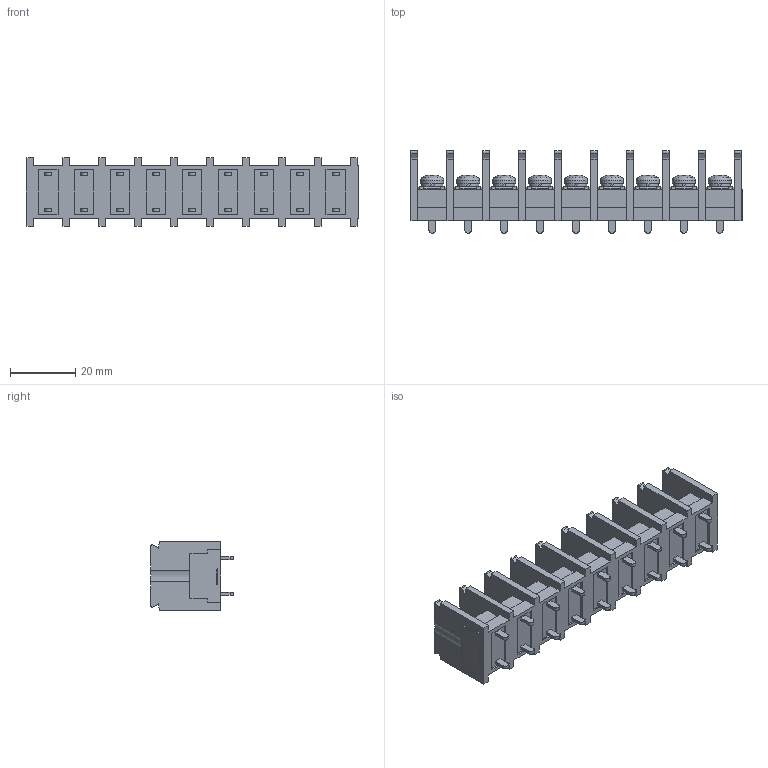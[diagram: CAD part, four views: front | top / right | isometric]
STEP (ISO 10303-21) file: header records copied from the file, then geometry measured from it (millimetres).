
FILE_DESCRIPTION(/* description */ ('Alibre Inc.'),/* implementation_level */ '2;1');
FILE_NAME(/* name */ 'export0',/* time_stamp */ '2015-12-02T12:36:20+09:00',/* author */ (''),/* organization */ (''),/* preprocessor_version */ 'ST-DEVELOPER v14',/* originating_system */ 'Alibre',/* authorisation */ '');
FILE_SCHEMA (('CONFIG_CONTROL_DESIGN'));
Length unit declared in the file: centimetre
Products named in the file (1): ID_1
Bounding box: 101.6 x 25.3 x 21 mm (x, y, z)
Volume: 18328.3 mm3; surface area: 19573.8 mm2
Topology: 1 solids, 17 shells, 1319 faces, 3588 edges, 2386 vertices
Faces by surface type: plane 1040, cylinder 112, bspline 104, cone 45, sphere 9, torus 9
Full cylindrical faces by diameter (mm): 4 x9, 6.5 x9, 7 x9
Entity records: 39675 total; most frequent: CARTESIAN_POINT 8311, ORIENTED_EDGE 7104, DIRECTION 4969, EDGE_CURVE 3552, VECTOR 2719, LINE 2719, VERTEX_POINT 2386, AXIS2_PLACEMENT_3D 1598
